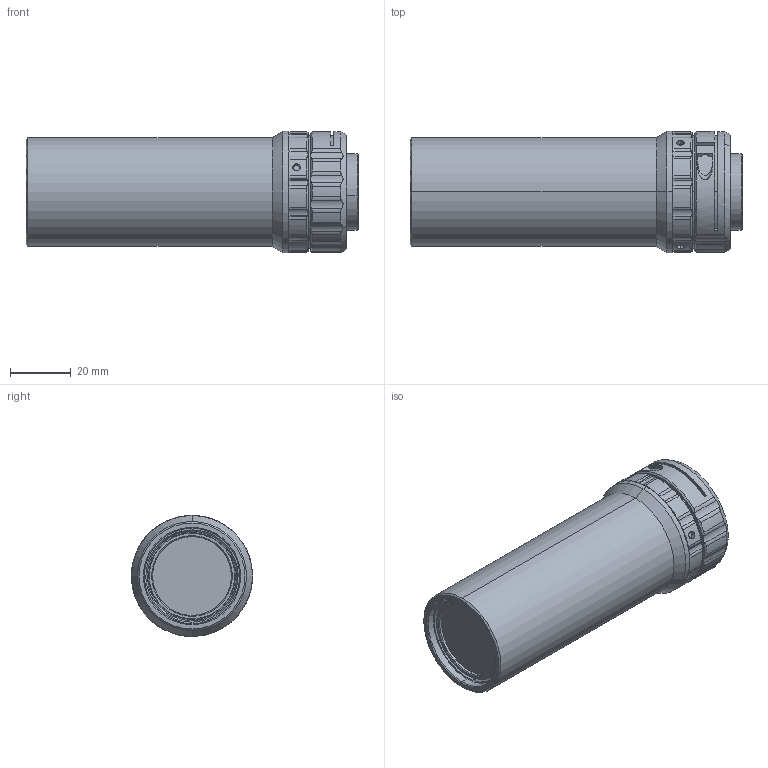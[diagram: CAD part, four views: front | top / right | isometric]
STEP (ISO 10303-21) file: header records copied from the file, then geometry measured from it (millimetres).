
FILE_DESCRIPTION (( 'STEP AP203' ), '1' );
FILE_NAME ('WWT121-08-135.STEP', '2022-11-25T01:26:43', ( '' ), ( '' ), 'SwSTEP 2.0', 'SolidWorks 2017', '' );
FILE_SCHEMA (( 'CONFIG_CONTROL_DESIGN' ));
Length unit declared in the file: millimetre
Products named in the file (1): WWT121-08-135
Bounding box: 109.66 x 40 x 40 mm (x, y, z)
Volume: 110621 mm3; surface area: 15977 mm2
Topology: 1 solids, 2 shells, 208 faces, 530 edges, 332 vertices
Faces by surface type: cylinder 114, plane 51, cone 43
Entity records: 7069 total; most frequent: CARTESIAN_POINT 2035, ORIENTED_EDGE 1056, DIRECTION 1048, EDGE_CURVE 528, AXIS2_PLACEMENT_3D 441, VERTEX_POINT 332, CIRCLE 232, EDGE_LOOP 218
